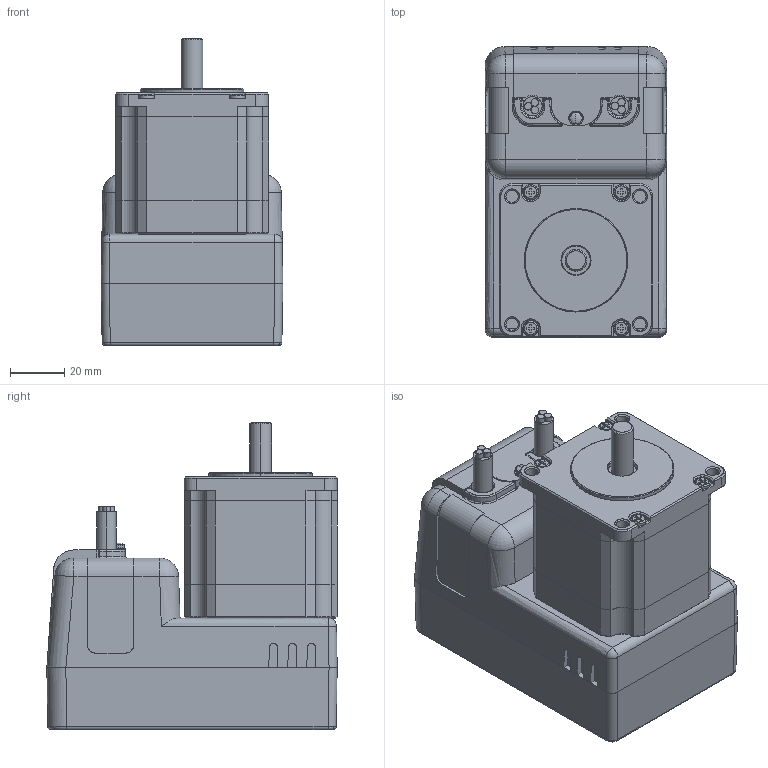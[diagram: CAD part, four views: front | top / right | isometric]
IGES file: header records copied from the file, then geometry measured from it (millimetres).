
Start section: SolidWorks IGES file using analytic representation for surfaces
Global section: file name: C:\Users\render\Documents\CAD Files\CM2 Series CAD\CM2-56B10A-RAW\CM2-56B10A.IGS; native system: SolidWorks 2009; preprocessor: SolidWorks 2009; author: render; date: 100517.152242; units: millimetre
Bounding box: 67 x 107 x 113.2 mm (x, y, z)
Surface area: 82808.4 mm2 (no closed solid volume)
Topology: 0 solids, 0 shells, 534 faces, 5578 edges, 5563 vertices
Faces by surface type: bspline 279, revolution 255
